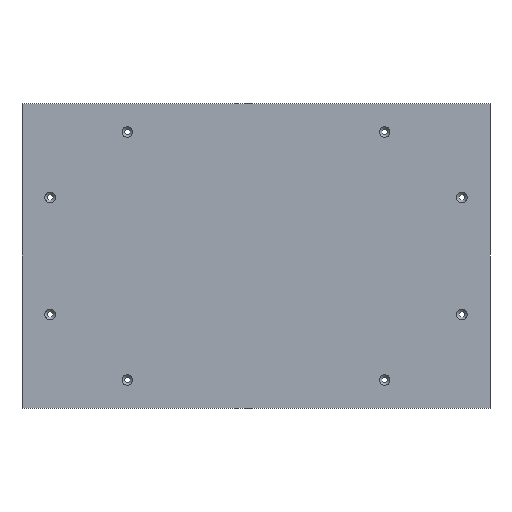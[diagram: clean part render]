
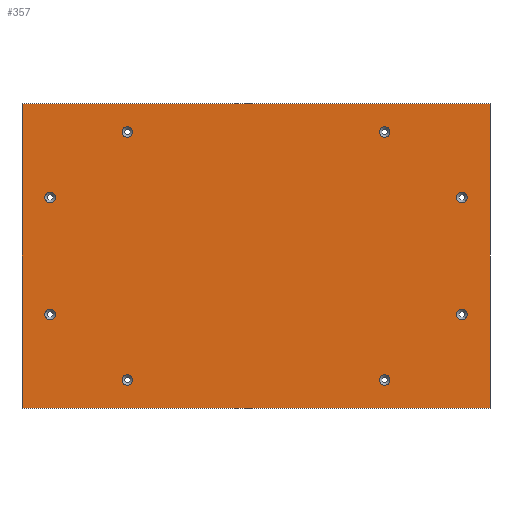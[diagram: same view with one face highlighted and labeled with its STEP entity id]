
A CAD part, front view. The second image highlights one B-rep face of the part: STEP entity #357.
In plain terms, the highlighted planar face has unit normal (0, -1, 0).
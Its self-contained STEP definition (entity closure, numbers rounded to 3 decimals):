
#1 = FACE_BOUND ( 'NONE', #209, .T. ) ;
#16 = CARTESIAN_POINT ( 'NONE',  ( 176., 0., -50. ) ) ;
#25 = VECTOR ( 'NONE', #303, 1000. ) ;
#28 = VERTEX_POINT ( 'NONE', #549 ) ;
#29 = LINE ( 'NONE', #248, #25 ) ;
#32 = CARTESIAN_POINT ( 'NONE',  ( -176., 0., 45.5 ) ) ;
#50 = EDGE_CURVE ( 'NONE', #86, #572, #576, .T. ) ;
#57 = EDGE_CURVE ( 'NONE', #572, #503, #172, .T. ) ;
#66 = CARTESIAN_POINT ( 'NONE',  ( -176., 0., 50. ) ) ;
#71 = CARTESIAN_POINT ( 'NONE',  ( 110., 0., -106. ) ) ;
#74 = CARTESIAN_POINT ( 'NONE',  ( 200., 0., -130. ) ) ;
#82 = AXIS2_PLACEMENT_3D ( 'NONE', #66, #482, #109 ) ;
#84 = VERTEX_POINT ( 'NONE', #32 ) ;
#85 = CARTESIAN_POINT ( 'NONE',  ( -110., 0., -106. ) ) ;
#86 = VERTEX_POINT ( 'NONE', #532 ) ;
#87 = VERTEX_POINT ( 'NONE', #448 ) ;
#89 = ORIENTED_EDGE ( 'NONE', *, *, #57, .F. ) ;
#95 = FACE_BOUND ( 'NONE', #623, .T. ) ;
#100 = FACE_BOUND ( 'NONE', #512, .T. ) ;
#101 = EDGE_LOOP ( 'NONE', ( #89, #667, #657, #426 ) ) ;
#109 = DIRECTION ( 'NONE',  ( 0., 0., -1. ) ) ;
#110 = EDGE_LOOP ( 'NONE', ( #441 ) ) ;
#112 = DIRECTION ( 'NONE',  ( -1., 0., 0. ) ) ;
#114 = CARTESIAN_POINT ( 'NONE',  ( 200., 0., 130. ) ) ;
#115 = CIRCLE ( 'NONE', #225, 4.5 ) ;
#126 = DIRECTION ( 'NONE',  ( 0., 0., -1. ) ) ;
#127 = DIRECTION ( 'NONE',  ( 0., 1., 0. ) ) ;
#128 = VERTEX_POINT ( 'NONE', #130 ) ;
#130 = CARTESIAN_POINT ( 'NONE',  ( -200., 0., -130. ) ) ;
#137 = DIRECTION ( 'NONE',  ( 0., 0., -1. ) ) ;
#140 = ORIENTED_EDGE ( 'NONE', *, *, #555, .T. ) ;
#141 = CIRCLE ( 'NONE', #82, 4.5 ) ;
#144 = PLANE ( 'NONE',  #457 ) ;
#155 = CIRCLE ( 'NONE', #663, 4.5 ) ;
#158 = ORIENTED_EDGE ( 'NONE', *, *, #362, .T. ) ;
#160 = DIRECTION ( 'NONE',  ( 0., 1., 0. ) ) ;
#172 = LINE ( 'NONE', #114, #433 ) ;
#174 = DIRECTION ( 'NONE',  ( 0., 0., -1. ) ) ;
#177 = AXIS2_PLACEMENT_3D ( 'NONE', #654, #390, #491 ) ;
#189 = EDGE_LOOP ( 'NONE', ( #568 ) ) ;
#191 = DIRECTION ( 'NONE',  ( 0., 1., 0. ) ) ;
#199 = CARTESIAN_POINT ( 'NONE',  ( -110., 0., 106. ) ) ;
#205 = ORIENTED_EDGE ( 'NONE', *, *, #548, .T. ) ;
#206 = VECTOR ( 'NONE', #112, 1000. ) ;
#209 = EDGE_LOOP ( 'NONE', ( #315 ) ) ;
#225 = AXIS2_PLACEMENT_3D ( 'NONE', #85, #127, #137 ) ;
#233 = CARTESIAN_POINT ( 'NONE',  ( 176., 0., 50. ) ) ;
#239 = VERTEX_POINT ( 'NONE', #497 ) ;
#241 = EDGE_CURVE ( 'NONE', #239, #239, #384, .T. ) ;
#248 = CARTESIAN_POINT ( 'NONE',  ( -200., 0., 130. ) ) ;
#255 = CARTESIAN_POINT ( 'NONE',  ( 110., 0., 106. ) ) ;
#257 = CARTESIAN_POINT ( 'NONE',  ( 0., 0., 0. ) ) ;
#264 = EDGE_CURVE ( 'NONE', #28, #28, #115, .T. ) ;
#273 = LINE ( 'NONE', #529, #206 ) ;
#287 = CARTESIAN_POINT ( 'NONE',  ( -110., 0., 101.5 ) ) ;
#291 = CARTESIAN_POINT ( 'NONE',  ( 176., 0., -54.5 ) ) ;
#292 = EDGE_CURVE ( 'NONE', #87, #87, #447, .T. ) ;
#303 = DIRECTION ( 'NONE',  ( 0., 0., 1. ) ) ;
#304 = EDGE_LOOP ( 'NONE', ( #308 ) ) ;
#308 = ORIENTED_EDGE ( 'NONE', *, *, #407, .T. ) ;
#310 = ORIENTED_EDGE ( 'NONE', *, *, #264, .T. ) ;
#314 = EDGE_CURVE ( 'NONE', #128, #86, #29, .T. ) ;
#315 = ORIENTED_EDGE ( 'NONE', *, *, #575, .T. ) ;
#323 = CARTESIAN_POINT ( 'NONE',  ( 200., 0., 130. ) ) ;
#328 = AXIS2_PLACEMENT_3D ( 'NONE', #16, #160, #368 ) ;
#352 = FACE_BOUND ( 'NONE', #110, .T. ) ;
#357 = ADVANCED_FACE ( 'NONE', ( #100, #510, #456, #95, #1, #352, #360, #408, #463 ), #144, .T. ) ;
#360 = FACE_BOUND ( 'NONE', #465, .T. ) ;
#362 = EDGE_CURVE ( 'NONE', #543, #543, #155, .T. ) ;
#364 = DIRECTION ( 'NONE',  ( 0., 0., -1. ) ) ;
#368 = DIRECTION ( 'NONE',  ( 0., 0., -1. ) ) ;
#384 = CIRCLE ( 'NONE', #177, 4.5 ) ;
#390 = DIRECTION ( 'NONE',  ( 0., 1., 0. ) ) ;
#401 = DIRECTION ( 'NONE',  ( 0., 0., -1. ) ) ;
#407 = EDGE_CURVE ( 'NONE', #489, #489, #546, .T. ) ;
#408 = FACE_BOUND ( 'NONE', #458, .T. ) ;
#426 = ORIENTED_EDGE ( 'NONE', *, *, #513, .F. ) ;
#429 = DIRECTION ( 'NONE',  ( 0., 1., 0. ) ) ;
#433 = VECTOR ( 'NONE', #126, 1000. ) ;
#441 = ORIENTED_EDGE ( 'NONE', *, *, #241, .T. ) ;
#447 = CIRCLE ( 'NONE', #580, 4.5 ) ;
#448 = CARTESIAN_POINT ( 'NONE',  ( 176., 0., 45.5 ) ) ;
#456 = FACE_BOUND ( 'NONE', #304, .T. ) ;
#457 = AXIS2_PLACEMENT_3D ( 'NONE', #257, #514, #656 ) ;
#458 = EDGE_LOOP ( 'NONE', ( #140 ) ) ;
#463 = FACE_OUTER_BOUND ( 'NONE', #101, .T. ) ;
#465 = EDGE_LOOP ( 'NONE', ( #310 ) ) ;
#468 = CIRCLE ( 'NONE', #328, 4.5 ) ;
#482 = DIRECTION ( 'NONE',  ( 0., 1., 0. ) ) ;
#489 = VERTEX_POINT ( 'NONE', #594 ) ;
#491 = DIRECTION ( 'NONE',  ( 0., 0., -1. ) ) ;
#497 = CARTESIAN_POINT ( 'NONE',  ( -176., 0., -54.5 ) ) ;
#500 = CARTESIAN_POINT ( 'NONE',  ( 110., 0., -110.5 ) ) ;
#503 = VERTEX_POINT ( 'NONE', #74 ) ;
#510 = FACE_BOUND ( 'NONE', #189, .T. ) ;
#512 = EDGE_LOOP ( 'NONE', ( #205 ) ) ;
#513 = EDGE_CURVE ( 'NONE', #503, #128, #273, .T. ) ;
#514 = DIRECTION ( 'NONE',  ( 0., -1., 0. ) ) ;
#524 = VECTOR ( 'NONE', #584, 1000. ) ;
#529 = CARTESIAN_POINT ( 'NONE',  ( -200., 0., -130. ) ) ;
#530 = CARTESIAN_POINT ( 'NONE',  ( -200., 0., 130. ) ) ;
#532 = CARTESIAN_POINT ( 'NONE',  ( -200., 0., 130. ) ) ;
#533 = CIRCLE ( 'NONE', #588, 4.5 ) ;
#543 = VERTEX_POINT ( 'NONE', #287 ) ;
#546 = CIRCLE ( 'NONE', #556, 4.5 ) ;
#548 = EDGE_CURVE ( 'NONE', #649, #649, #468, .T. ) ;
#549 = CARTESIAN_POINT ( 'NONE',  ( -110., 0., -110.5 ) ) ;
#555 = EDGE_CURVE ( 'NONE', #653, #653, #533, .T. ) ;
#556 = AXIS2_PLACEMENT_3D ( 'NONE', #255, #561, #622 ) ;
#561 = DIRECTION ( 'NONE',  ( 0., 1., 0. ) ) ;
#568 = ORIENTED_EDGE ( 'NONE', *, *, #292, .T. ) ;
#572 = VERTEX_POINT ( 'NONE', #323 ) ;
#575 = EDGE_CURVE ( 'NONE', #84, #84, #141, .T. ) ;
#576 = LINE ( 'NONE', #530, #524 ) ;
#580 = AXIS2_PLACEMENT_3D ( 'NONE', #233, #191, #401 ) ;
#584 = DIRECTION ( 'NONE',  ( 1., 0., 0. ) ) ;
#588 = AXIS2_PLACEMENT_3D ( 'NONE', #71, #429, #174 ) ;
#594 = CARTESIAN_POINT ( 'NONE',  ( 110., 0., 101.5 ) ) ;
#610 = DIRECTION ( 'NONE',  ( 0., 1., 0. ) ) ;
#622 = DIRECTION ( 'NONE',  ( 0., 0., -1. ) ) ;
#623 = EDGE_LOOP ( 'NONE', ( #158 ) ) ;
#649 = VERTEX_POINT ( 'NONE', #291 ) ;
#653 = VERTEX_POINT ( 'NONE', #500 ) ;
#654 = CARTESIAN_POINT ( 'NONE',  ( -176., 0., -50. ) ) ;
#656 = DIRECTION ( 'NONE',  ( 0., 0., -1. ) ) ;
#657 = ORIENTED_EDGE ( 'NONE', *, *, #314, .F. ) ;
#663 = AXIS2_PLACEMENT_3D ( 'NONE', #199, #610, #364 ) ;
#667 = ORIENTED_EDGE ( 'NONE', *, *, #50, .F. ) ;
